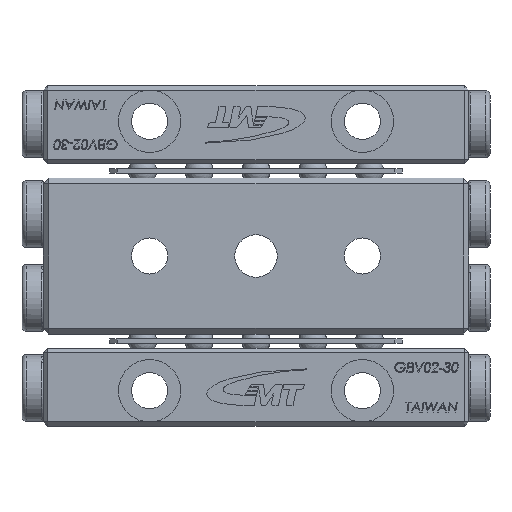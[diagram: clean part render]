
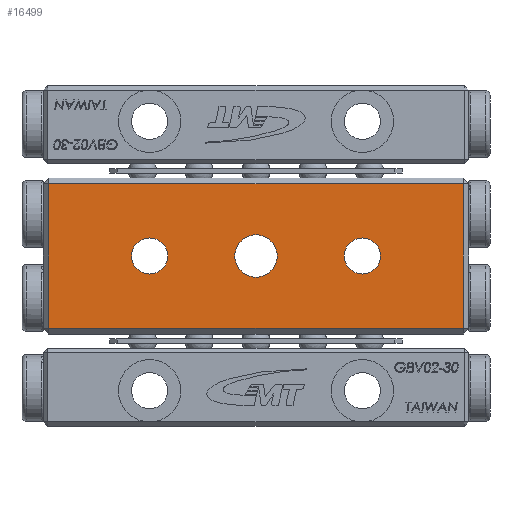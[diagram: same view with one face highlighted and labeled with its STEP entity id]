
A CAD part, front view. The second image highlights one B-rep face of the part: STEP entity #16499.
In plain terms, the highlighted planar face has unit normal (0, -1, 0).
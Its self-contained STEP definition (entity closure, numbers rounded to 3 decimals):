
#99 = CARTESIAN_POINT ( 'NONE',  ( 7.5, 0., 0. ) ) ;
#692 = LINE ( 'NONE', #23975, #8127 ) ;
#1654 = ORIENTED_EDGE ( 'NONE', *, *, #28759, .T. ) ;
#2185 = VERTEX_POINT ( 'NONE', #25143 ) ;
#3077 = DIRECTION ( 'NONE',  ( 0., 0., 1. ) ) ;
#3102 = EDGE_LOOP ( 'NONE', ( #18209 ) ) ;
#4708 = FACE_BOUND ( 'NONE', #22773, .T. ) ;
#5420 = EDGE_CURVE ( 'NONE', #28760, #28760, #24937, .T. ) ;
#6433 = AXIS2_PLACEMENT_3D ( 'NONE', #15384, #17761, #18056 ) ;
#6667 = ORIENTED_EDGE ( 'NONE', *, *, #5420, .T. ) ;
#6745 = CIRCLE ( 'NONE', #23431, 1.5 ) ;
#6925 = VERTEX_POINT ( 'NONE', #13335 ) ;
#6948 = FACE_BOUND ( 'NONE', #3102, .T. ) ;
#8127 = VECTOR ( 'NONE', #3077, 1000. ) ;
#8231 = EDGE_CURVE ( 'NONE', #17580, #22181, #18405, .T. ) ;
#8275 = CARTESIAN_POINT ( 'NONE',  ( 7.5, 0., 1.275 ) ) ;
#8318 = DIRECTION ( 'NONE',  ( 0., 0., 1. ) ) ;
#9015 = CARTESIAN_POINT ( 'NONE',  ( 0., 0., 1.5 ) ) ;
#9212 = DIRECTION ( 'NONE',  ( 0., 1., 0. ) ) ;
#9334 = FACE_BOUND ( 'NONE', #20528, .T. ) ;
#9650 = DIRECTION ( 'NONE',  ( 0., 0., 1. ) ) ;
#9658 = DIRECTION ( 'NONE',  ( 0., 0., -1. ) ) ;
#9666 = VECTOR ( 'NONE', #9658, 1000. ) ;
#11218 = CIRCLE ( 'NONE', #6433, 1.275 ) ;
#11281 = DIRECTION ( 'NONE',  ( 0., 1., 0. ) ) ;
#11295 = VERTEX_POINT ( 'NONE', #17111 ) ;
#11404 = DIRECTION ( 'NONE',  ( -1., 0., 0. ) ) ;
#11885 = LINE ( 'NONE', #13982, #9666 ) ;
#11927 = LINE ( 'NONE', #25822, #25834 ) ;
#12351 = EDGE_CURVE ( 'NONE', #13191, #13191, #6745, .T. ) ;
#12372 = DIRECTION ( 'NONE',  ( 1., 0., 0. ) ) ;
#12780 = ORIENTED_EDGE ( 'NONE', *, *, #8231, .T. ) ;
#13088 = DIRECTION ( 'NONE',  ( 0., 1., 0. ) ) ;
#13191 = VERTEX_POINT ( 'NONE', #9015 ) ;
#13335 = CARTESIAN_POINT ( 'NONE',  ( -7.5, 0., 1.275 ) ) ;
#13555 = AXIS2_PLACEMENT_3D ( 'NONE', #18423, #11281, #29518 ) ;
#13952 = AXIS2_PLACEMENT_3D ( 'NONE', #99, #9212, #9650 ) ;
#13982 = CARTESIAN_POINT ( 'NONE',  ( -14.6, 0., 5.5 ) ) ;
#14016 = EDGE_LOOP ( 'NONE', ( #27718, #1654, #24005, #12780 ) ) ;
#15384 = CARTESIAN_POINT ( 'NONE',  ( -7.5, 0., 0. ) ) ;
#16499 = ADVANCED_FACE ( 'NONE', ( #27413, #6948, #9334, #4708 ), #18129, .F. ) ;
#17111 = CARTESIAN_POINT ( 'NONE',  ( 14.6, 0., -5.1 ) ) ;
#17562 = EDGE_CURVE ( 'NONE', #6925, #6925, #11218, .T. ) ;
#17580 = VERTEX_POINT ( 'NONE', #26898 ) ;
#17761 = DIRECTION ( 'NONE',  ( 0., 1., 0. ) ) ;
#18056 = DIRECTION ( 'NONE',  ( 0., 0., 1. ) ) ;
#18129 = PLANE ( 'NONE',  #13555 ) ;
#18209 = ORIENTED_EDGE ( 'NONE', *, *, #12351, .T. ) ;
#18405 = LINE ( 'NONE', #22756, #23323 ) ;
#18423 = CARTESIAN_POINT ( 'NONE',  ( -15., 0., 5.5 ) ) ;
#19400 = ORIENTED_EDGE ( 'NONE', *, *, #17562, .T. ) ;
#20528 = EDGE_LOOP ( 'NONE', ( #6667 ) ) ;
#22181 = VERTEX_POINT ( 'NONE', #24592 ) ;
#22756 = CARTESIAN_POINT ( 'NONE',  ( -15., 0., 5.1 ) ) ;
#22773 = EDGE_LOOP ( 'NONE', ( #19400 ) ) ;
#23323 = VECTOR ( 'NONE', #11404, 1000. ) ;
#23431 = AXIS2_PLACEMENT_3D ( 'NONE', #29389, #13088, #8318 ) ;
#23615 = EDGE_CURVE ( 'NONE', #22181, #2185, #11885, .T. ) ;
#23975 = CARTESIAN_POINT ( 'NONE',  ( 14.6, 0., 5.5 ) ) ;
#24005 = ORIENTED_EDGE ( 'NONE', *, *, #27682, .T. ) ;
#24592 = CARTESIAN_POINT ( 'NONE',  ( -14.6, 0., 5.1 ) ) ;
#24937 = CIRCLE ( 'NONE', #13952, 1.275 ) ;
#25143 = CARTESIAN_POINT ( 'NONE',  ( -14.6, 0., -5.1 ) ) ;
#25822 = CARTESIAN_POINT ( 'NONE',  ( -15., 0., -5.1 ) ) ;
#25834 = VECTOR ( 'NONE', #12372, 1000. ) ;
#26898 = CARTESIAN_POINT ( 'NONE',  ( 14.6, 0., 5.1 ) ) ;
#27413 = FACE_OUTER_BOUND ( 'NONE', #14016, .T. ) ;
#27682 = EDGE_CURVE ( 'NONE', #11295, #17580, #692, .T. ) ;
#27718 = ORIENTED_EDGE ( 'NONE', *, *, #23615, .T. ) ;
#28759 = EDGE_CURVE ( 'NONE', #2185, #11295, #11927, .T. ) ;
#28760 = VERTEX_POINT ( 'NONE', #8275 ) ;
#29389 = CARTESIAN_POINT ( 'NONE',  ( 0., 0., 0. ) ) ;
#29518 = DIRECTION ( 'NONE',  ( 0., 0., 1. ) ) ;
